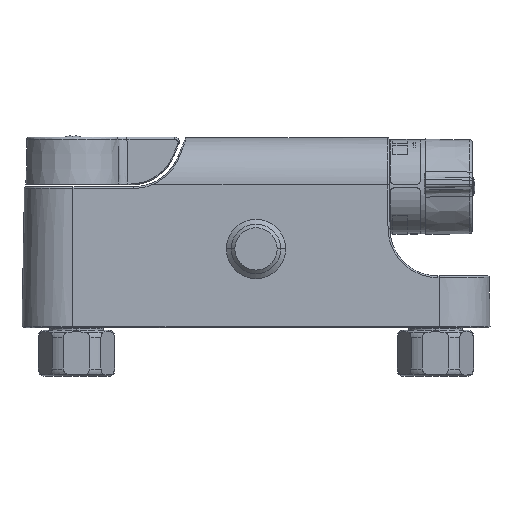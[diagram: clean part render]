
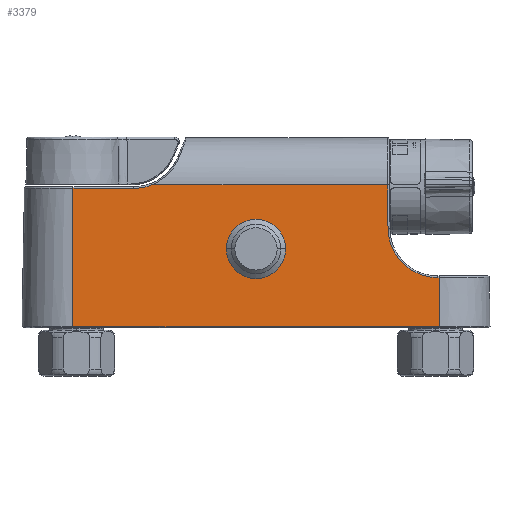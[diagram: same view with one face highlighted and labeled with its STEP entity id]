
A CAD part, front view. The second image highlights one B-rep face of the part: STEP entity #3379.
In plain terms, the highlighted planar face has unit normal (0, -1, 0.026).
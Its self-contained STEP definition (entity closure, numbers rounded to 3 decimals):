
#2622=CARTESIAN_POINT('',(-76.5,-21.834,-32.6));
#2628=DIRECTION('',(1.,0.,0.));
#2629=VECTOR('',#2628,153.);
#2630=CARTESIAN_POINT('',(-76.5,-21.834,-32.6));
#2631=LINE('',#2630,#2629);
#2632=DIRECTION('',(0.,0.026,1.));
#2633=VECTOR('',#2632,57.938);
#2634=CARTESIAN_POINT('',(-76.5,-21.834,-32.6));
#2635=LINE('',#2634,#2633);
#2657=DIRECTION('',(0.,0.026,1.));
#2658=VECTOR('',#2657,20.625);
#2659=CARTESIAN_POINT('',(76.5,-21.834,-32.6));
#2660=LINE('',#2659,#2658);
#2661=DIRECTION('',(-1.,0.,0.));
#2662=VECTOR('',#2661,98.611);
#2663=CARTESIAN_POINT('',(55.023,-20.281,26.739));
#2664=LINE('',#2663,#2662);
#2778=CARTESIAN_POINT('',(-43.589,-20.281,
26.739));
#2795=CARTESIAN_POINT('',(-51.105,-20.318,
25.318));
#2796=CARTESIAN_POINT('',(-50.249,-20.318,
25.318));
#2797=CARTESIAN_POINT('',(-48.551,-20.315,
25.423));
#2798=CARTESIAN_POINT('',(-46.005,-20.303,
25.904));
#2799=CARTESIAN_POINT('',(-44.386,-20.289,
26.426));
#2800=CARTESIAN_POINT('',(-43.589,-20.281,
26.739));
#2814=DIRECTION('',(1.,0.,0.));
#2815=VECTOR('',#2814,25.395);
#2816=CARTESIAN_POINT('',(-76.5,-20.318,25.318));
#2817=LINE('',#2816,#2815);
#2937=CARTESIAN_POINT('',(76.5,-21.295,-11.982));
#2965=DIRECTION('',(-1.,0.,0.));
#2966=VECTOR('',#2965,0.619);
#2967=CARTESIAN_POINT('',(76.5,-21.295,-11.982));
#2968=LINE('',#2967,#2966);
#2978=CARTESIAN_POINT('',(55.181,-20.757,8.538));
#2979=CARTESIAN_POINT('',(55.192,-20.789,7.338));
#2980=CARTESIAN_POINT('',(55.417,-20.851,4.975));
#2981=CARTESIAN_POINT('',(56.375,-20.942,1.48));
#2982=CARTESIAN_POINT('',(57.92,-21.027,
-1.781));
#2983=CARTESIAN_POINT('',(60.008,-21.105,
-4.731));
#2984=CARTESIAN_POINT('',(62.574,-21.171,
-7.274));
#2985=CARTESIAN_POINT('',(65.542,-21.225,
-9.335));
#2986=CARTESIAN_POINT('',(68.815,-21.265,
-10.85));
#2987=CARTESIAN_POINT('',(72.318,-21.289,
-11.777));
#2988=CARTESIAN_POINT('',(74.681,-21.295,
-11.982));
#2989=CARTESIAN_POINT('',(75.881,-21.295,
-11.982));
#3009=DIRECTION('',(0.009,-0.026,-1.));
#3010=VECTOR('',#3009,18.208);
#3011=CARTESIAN_POINT('',(55.023,-20.281,26.739));
#3012=LINE('',#3011,#3010);
#3167=VERTEX_POINT('',#2778);
#3169=VERTEX_POINT('',#2795);
#3171=CARTESIAN_POINT('',(-76.5,-20.318,25.318));
#3172=VERTEX_POINT('',#3171);
#3183=VERTEX_POINT('',#2937);
#3185=CARTESIAN_POINT('',(75.881,-21.295,
-11.982));
#3186=VERTEX_POINT('',#3185);
#3189=VERTEX_POINT('',#2978);
#3191=CARTESIAN_POINT('',(55.023,-20.281,26.739));
#3192=VERTEX_POINT('',#3191);
#3201=VERTEX_POINT('',#2622);
#3202=CARTESIAN_POINT('',(76.5,-21.834,-32.6));
#3203=VERTEX_POINT('',#3202);
#3355=CARTESIAN_POINT('',(-76.5,-20.3,26.));
#3356=DIRECTION('',(0.,-1.,0.026));
#3357=DIRECTION('',(1.,0.,0.));
#3358=AXIS2_PLACEMENT_3D('',#3355,#3356,#3357);
#3359=PLANE('',#3358);
#3361=ORIENTED_EDGE('',*,*,#3360,.F.);
#3362=ORIENTED_EDGE('',*,*,#3350,.T.);
#3364=ORIENTED_EDGE('',*,*,#3363,.T.);
#3366=ORIENTED_EDGE('',*,*,#3365,.T.);
#3368=ORIENTED_EDGE('',*,*,#3367,.F.);
#3370=ORIENTED_EDGE('',*,*,#3369,.T.);
#3372=ORIENTED_EDGE('',*,*,#3371,.T.);
#3374=ORIENTED_EDGE('',*,*,#3373,.F.);
#3376=ORIENTED_EDGE('',*,*,#3375,.F.);
#3377=EDGE_LOOP('',(#3361,#3362,#3364,#3366,#3368,#3370,#3372,#3374,#3376));
#3378=FACE_OUTER_BOUND('',#3377,.F.);
#3379=ADVANCED_FACE('',(#3378),#3359,.T.);
#2801=B_SPLINE_CURVE_WITH_KNOTS('',3,(#2795,#2796,#2797,#2798,#2799,#2800),
.UNSPECIFIED.,.F.,.F.,(4,1,1,4),(0.,0.333,0.667,1.),
.UNSPECIFIED.);
#2990=B_SPLINE_CURVE_WITH_KNOTS('',3,(#2978,#2979,#2980,#2981,#2982,#2983,#2984,
#2985,#2986,#2987,#2988,#2989),.UNSPECIFIED.,.F.,.F.,(4,1,1,1,1,1,1,1,1,4),
(0.,0.111,0.222,0.333,0.444,
0.556,0.667,0.778,0.889,1.),
.UNSPECIFIED.);
#3350=EDGE_CURVE('',#3201,#3172,#2635,.T.);
#3360=EDGE_CURVE('',#3201,#3203,#2631,.T.);
#3363=EDGE_CURVE('',#3172,#3169,#2817,.T.);
#3365=EDGE_CURVE('',#3169,#3167,#2801,.T.);
#3367=EDGE_CURVE('',#3192,#3167,#2664,.T.);
#3369=EDGE_CURVE('',#3192,#3189,#3012,.T.);
#3371=EDGE_CURVE('',#3189,#3186,#2990,.T.);
#3373=EDGE_CURVE('',#3183,#3186,#2968,.T.);
#3375=EDGE_CURVE('',#3203,#3183,#2660,.T.);
